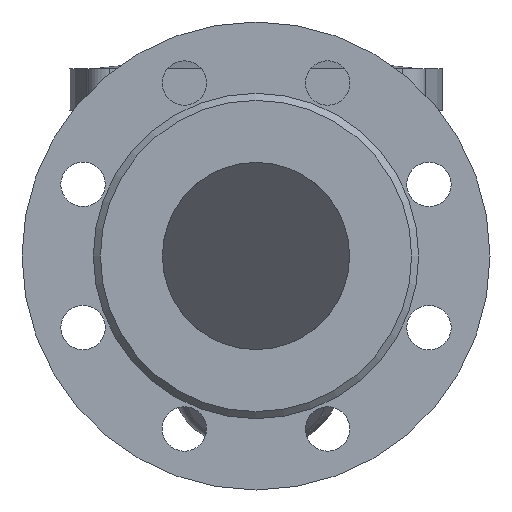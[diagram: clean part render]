
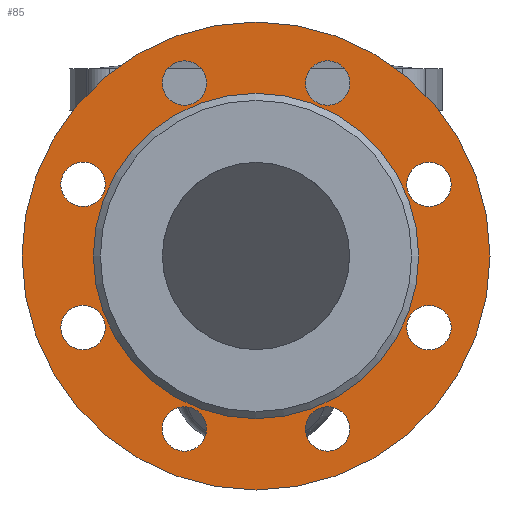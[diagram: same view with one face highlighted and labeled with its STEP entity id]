
A CAD part, front view. The second image highlights one B-rep face of the part: STEP entity #85.
In plain terms, the highlighted planar face has unit normal (0, -1, 0).
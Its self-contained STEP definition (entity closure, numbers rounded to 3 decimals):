
#85=ADVANCED_FACE('',(#687,#689,#691,#693,#695,#697,#699,#701,#703,#705),#707,.T.);
#687=FACE_BOUND('',#688,.T.);
#688=EDGE_LOOP('',(#2462));
#689=FACE_BOUND('',#690,.T.);
#690=EDGE_LOOP('',(#2463));
#691=FACE_BOUND('',#692,.T.);
#692=EDGE_LOOP('',(#2464));
#693=FACE_BOUND('',#694,.T.);
#694=EDGE_LOOP('',(#2465));
#695=FACE_BOUND('',#696,.T.);
#696=EDGE_LOOP('',(#2466));
#697=FACE_BOUND('',#698,.T.);
#698=EDGE_LOOP('',(#2467));
#699=FACE_BOUND('',#700,.T.);
#700=EDGE_LOOP('',(#2468));
#701=FACE_BOUND('',#702,.T.);
#702=EDGE_LOOP('',(#2469));
#703=FACE_BOUND('',#704,.T.);
#704=EDGE_LOOP('',(#2470));
#705=FACE_BOUND('',#706,.T.);
#706=EDGE_LOOP('',(#2471));
#707=PLANE('',#708);
#708=AXIS2_PLACEMENT_3D('',#709,#710,#711);
#709=CARTESIAN_POINT('',(0.,-117.5,0.));
#710=DIRECTION('',(0.,-1.,0.));
#711=DIRECTION('',(0.,0.,1.));
#2462=ORIENTED_EDGE('',*,*,#2730,.F.);
#2463=ORIENTED_EDGE('',*,*,#2731,.T.);
#2464=ORIENTED_EDGE('',*,*,#2732,.T.);
#2465=ORIENTED_EDGE('',*,*,#2733,.T.);
#2466=ORIENTED_EDGE('',*,*,#2734,.T.);
#2467=ORIENTED_EDGE('',*,*,#2735,.T.);
#2468=ORIENTED_EDGE('',*,*,#2736,.T.);
#2469=ORIENTED_EDGE('',*,*,#2737,.T.);
#2470=ORIENTED_EDGE('',*,*,#2729,.T.);
#2471=ORIENTED_EDGE('',*,*,#2738,.T.);
#2729=EDGE_CURVE('',#2863,#2863,#2864,.T.);
#2730=EDGE_CURVE('',#2865,#2865,#2866,.T.);
#2731=EDGE_CURVE('',#2867,#2867,#2868,.F.);
#2732=EDGE_CURVE('',#2869,#2869,#2870,.F.);
#2733=EDGE_CURVE('',#2871,#2871,#2872,.F.);
#2734=EDGE_CURVE('',#2873,#2873,#2874,.F.);
#2735=EDGE_CURVE('',#2875,#2875,#2876,.F.);
#2736=EDGE_CURVE('',#2877,#2877,#2878,.F.);
#2737=EDGE_CURVE('',#2879,#2879,#2880,.F.);
#2738=EDGE_CURVE('',#2881,#2881,#2882,.F.);
#2863=VERTEX_POINT('',#3102);
#2864=CIRCLE('',#3103,69.5);
#2865=VERTEX_POINT('',#3107);
#2866=CIRCLE('',#3108,100.);
#2867=VERTEX_POINT('',#3112);
#2868=CIRCLE('',#3113,9.5);
#2869=VERTEX_POINT('',#3117);
#2870=CIRCLE('',#3118,9.5);
#2871=VERTEX_POINT('',#3122);
#2872=CIRCLE('',#3123,9.5);
#2873=VERTEX_POINT('',#3127);
#2874=CIRCLE('',#3128,9.5);
#2875=VERTEX_POINT('',#3132);
#2876=CIRCLE('',#3133,9.5);
#2877=VERTEX_POINT('',#3137);
#2878=CIRCLE('',#3138,9.5);
#2879=VERTEX_POINT('',#3142);
#2880=CIRCLE('',#3143,9.5);
#2881=VERTEX_POINT('',#3147);
#2882=CIRCLE('',#3148,9.5);
#3102=CARTESIAN_POINT('',(0.,-117.5,69.5));
#3103=AXIS2_PLACEMENT_3D('',#3104,#3105,#3106);
#3104=CARTESIAN_POINT('',(0.,-117.5,0.));
#3105=DIRECTION('',(0.,1.,0.));
#3106=DIRECTION('',(0.,0.,1.));
#3107=CARTESIAN_POINT('',(0.,-117.5,100.));
#3108=AXIS2_PLACEMENT_3D('',#3109,#3110,#3111);
#3109=CARTESIAN_POINT('',(0.,-117.5,0.));
#3110=DIRECTION('',(0.,1.,0.));
#3111=DIRECTION('',(0.,0.,1.));
#3112=CARTESIAN_POINT('',(37.332,-117.5,67.193));
#3113=AXIS2_PLACEMENT_3D('',#3114,#3115,#3116);
#3114=CARTESIAN_POINT('',(30.615,-117.5,73.91));
#3115=DIRECTION('',(0.,-1.,0.));
#3116=DIRECTION('',(0.707,0.,-0.707));
#3117=CARTESIAN_POINT('',(73.91,-117.5,21.115));
#3118=AXIS2_PLACEMENT_3D('',#3119,#3120,#3121);
#3119=CARTESIAN_POINT('',(73.91,-117.5,30.615));
#3120=DIRECTION('',(0.,-1.,0.));
#3121=DIRECTION('',(0.,0.,-1.));
#3122=CARTESIAN_POINT('',(67.193,-117.5,-37.332));
#3123=AXIS2_PLACEMENT_3D('',#3124,#3125,#3126);
#3124=CARTESIAN_POINT('',(73.91,-117.5,-30.615));
#3125=DIRECTION('',(0.,-1.,0.));
#3126=DIRECTION('',(-0.707,0.,-0.707));
#3127=CARTESIAN_POINT('',(21.115,-117.5,-73.91));
#3128=AXIS2_PLACEMENT_3D('',#3129,#3130,#3131);
#3129=CARTESIAN_POINT('',(30.615,-117.5,-73.91));
#3130=DIRECTION('',(0.,-1.,0.));
#3131=DIRECTION('',(-1.,0.,0.));
#3132=CARTESIAN_POINT('',(-37.332,-117.5,-67.193));
#3133=AXIS2_PLACEMENT_3D('',#3134,#3135,#3136);
#3134=CARTESIAN_POINT('',(-30.615,-117.5,-73.91));
#3135=DIRECTION('',(0.,-1.,0.));
#3136=DIRECTION('',(-0.707,0.,0.707));
#3137=CARTESIAN_POINT('',(-73.91,-117.5,-21.115));
#3138=AXIS2_PLACEMENT_3D('',#3139,#3140,#3141);
#3139=CARTESIAN_POINT('',(-73.91,-117.5,-30.615));
#3140=DIRECTION('',(0.,-1.,0.));
#3141=DIRECTION('',(0.,0.,1.));
#3142=CARTESIAN_POINT('',(-67.193,-117.5,37.332));
#3143=AXIS2_PLACEMENT_3D('',#3144,#3145,#3146);
#3144=CARTESIAN_POINT('',(-73.91,-117.5,30.615));
#3145=DIRECTION('',(0.,-1.,0.));
#3146=DIRECTION('',(0.707,0.,0.707));
#3147=CARTESIAN_POINT('',(-21.115,-117.5,73.91));
#3148=AXIS2_PLACEMENT_3D('',#3149,#3150,#3151);
#3149=CARTESIAN_POINT('',(-30.615,-117.5,73.91));
#3150=DIRECTION('',(0.,-1.,0.));
#3151=DIRECTION('',(1.,0.,0.));
